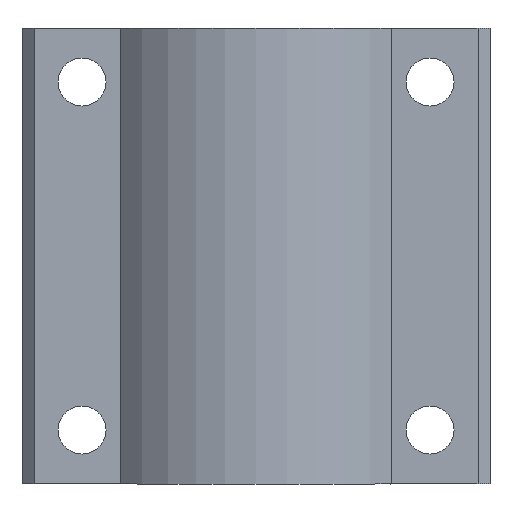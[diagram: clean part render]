
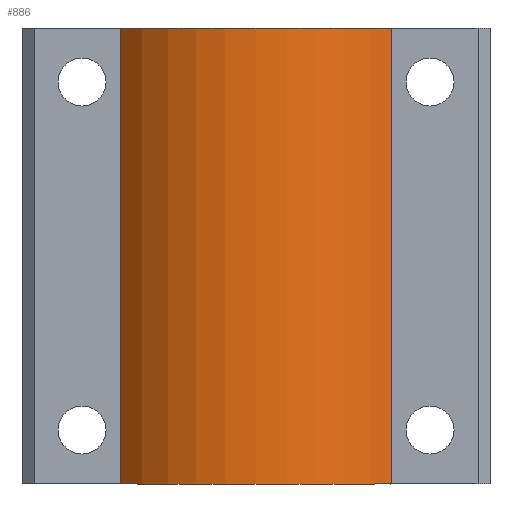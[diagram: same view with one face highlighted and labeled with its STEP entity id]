
A CAD part, front view. The second image highlights one B-rep face of the part: STEP entity #886.
In plain terms, the highlighted cylindrical face has radius 29.5 mm (diameter 59 mm), a partial arc.
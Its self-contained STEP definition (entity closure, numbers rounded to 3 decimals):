
#689=CARTESIAN_POINT('',(21.858,-14.802,-2.));
#690=VERTEX_POINT('',#689);
#697=CARTESIAN_POINT('',(-23.275,-14.802,-2.));
#698=VERTEX_POINT('',#697);
#699=CARTESIAN_POINT('',(-0.709,4.198,-2.));
#700=DIRECTION('',(0.0,0.0,1.0));
#701=DIRECTION('',(0.765,0.644,0.0));
#702=AXIS2_PLACEMENT_3D('',#699,#700,#701);
#703=CIRCLE('',#702,29.5);
#704=EDGE_CURVE('',#698,#690,#703,.T.);
#835=CARTESIAN_POINT('',(21.858,-14.802,74.));
#836=VERTEX_POINT('',#835);
#843=CARTESIAN_POINT('',(21.858,-14.802,74.));
#844=DIRECTION('',(0.0,0.0,-1.0));
#845=VECTOR('',#844,76.0);
#846=LINE('',#843,#845);
#847=EDGE_CURVE('',#836,#690,#846,.T.);
#862=CARTESIAN_POINT('',(-0.709,4.198,36.0));
#863=DIRECTION('',(0.0,0.0,1.0));
#864=DIRECTION('',(0.765,0.644,0.0));
#865=AXIS2_PLACEMENT_3D('',#862,#863,#864);
#866=CYLINDRICAL_SURFACE('',#865,29.5);
#867=CARTESIAN_POINT('',(-23.275,-14.802,74.));
#868=VERTEX_POINT('',#867);
#869=CARTESIAN_POINT('',(-0.709,4.198,74.0));
#870=DIRECTION('',(0.0,0.0,-1.0));
#871=DIRECTION('',(0.765,0.644,0.0));
#872=AXIS2_PLACEMENT_3D('',#869,#870,#871);
#873=CIRCLE('',#872,29.5);
#874=EDGE_CURVE('',#836,#868,#873,.T.);
#875=ORIENTED_EDGE('',*,*,#874,.T.);
#876=CARTESIAN_POINT('',(-23.275,-14.802,74.));
#877=DIRECTION('',(0.0,0.0,-1.0));
#878=VECTOR('',#877,76.0);
#879=LINE('',#876,#878);
#880=EDGE_CURVE('',#868,#698,#879,.T.);
#881=ORIENTED_EDGE('',*,*,#880,.T.);
#882=ORIENTED_EDGE('',*,*,#704,.T.);
#883=ORIENTED_EDGE('',*,*,#847,.F.);
#884=EDGE_LOOP('',(#875,#881,#882,#883));
#885=FACE_OUTER_BOUND('',#884,.T.);
#886=ADVANCED_FACE('',(#885),#866,.T.);
